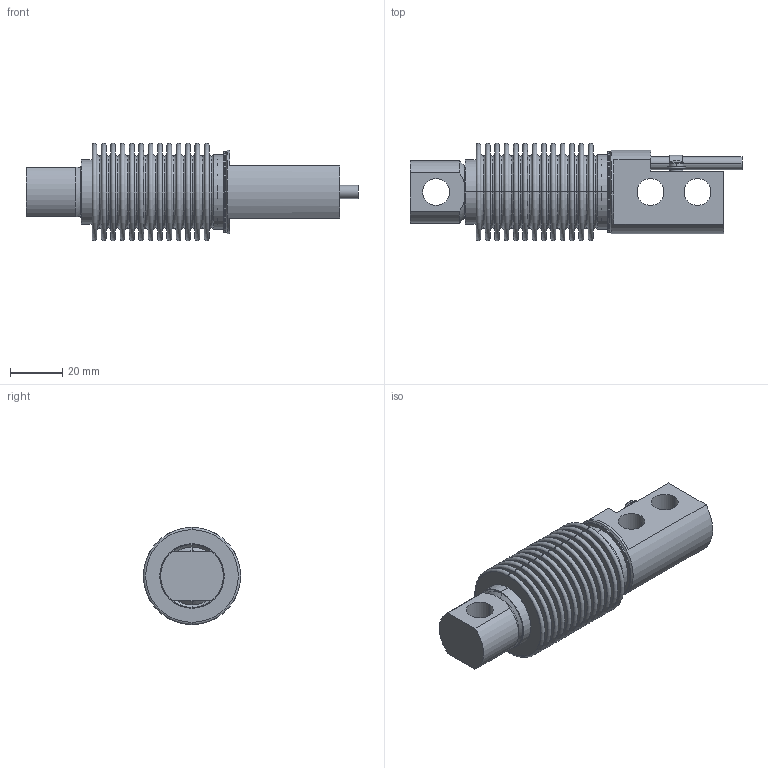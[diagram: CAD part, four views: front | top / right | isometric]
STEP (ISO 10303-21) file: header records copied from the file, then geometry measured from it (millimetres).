
FILE_DESCRIPTION (( 'STEP AP214' ), '1' );
FILE_NAME ('BM11-high cap assy.STEP', '2012-01-18T13:41:04', ( 'Gebruiker' ), ( 'Microsoft' ), 'SwSTEP 2.0', 'SolidWorks 2011', '' );
FILE_SCHEMA (( 'AUTOMOTIVE_DESIGN' ));
Length unit declared in the file: millimetre
Products named in the file (7): Element 350kg; Bellow; pan head cross recess screw_iso_ISO 7045 - M3 x 6 - Z --- 6N; plain washer normal grade a_iso_Washer ISO 7089 - 3; Cable clip; Cable; BM11-high cap assy
Assembly tree (6 placements, depth 2):
  BM11-high cap assy
    Bellow
    Cable clip
    pan head cross recess screw_iso_ISO 7045 - M3 x 6 - Z --- 6N
    Cable
    plain washer normal grade a_iso_Washer ISO 7089 - 3
    Element 350kg
Bounding box: 127.01 x 37.21 x 37.21 mm (x, y, z)
Volume: 41655.5 mm3; surface area: 47666.4 mm2
Topology: 6 solids, 6 shells, 357 faces, 773 edges, 483 vertices
Faces by surface type: torus 160, plane 115, cylinder 57, cone 23, sphere 2
Entity records: 10291 total; most frequent: DIRECTION 2078, CARTESIAN_POINT 1681, ORIENTED_EDGE 1538, AXIS2_PLACEMENT_3D 960, EDGE_CURVE 769, CIRCLE 594, VERTEX_POINT 483, EDGE_LOOP 434
